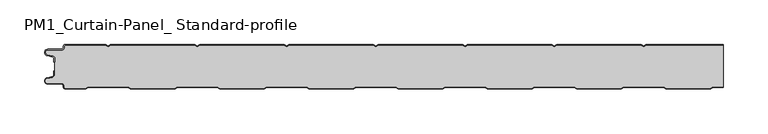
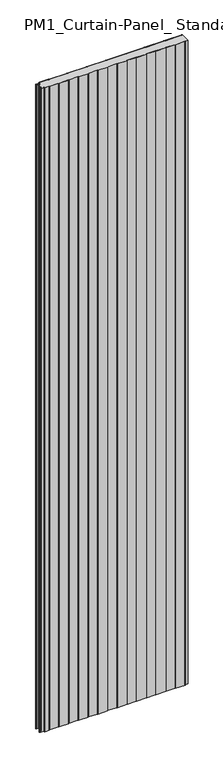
"""IFC4 building model written with IfcOpenShell, lengths in millimetres: plate geometry, PM1_Curtain-Panel_ Standard-profile : ACH_PM1_Acoustic-Sectioning-Panel_50M."""

from ifc_helpers import new_model, si_unit, point, frame_2d, origin, origin_with_axes, place, context, project, spatial, polyline, circle_curve, trimmed, segment, composite_curve, outline, extrude, source, transform, mapped, element, save


def pm1_curtain_panel_standard_profile_808d0dd5(model_context):
    return source(origin(), model_context, "Body", "SweptSolid", [
        extrude(outline(composite_curve([segment(trimmed(circle_curve(frame_2d((-377.0119739, -15.878557)), 2.0), [point((-375.0119739, -15.878557))], [point((-376.5620718, -13.9298169))], True, "CARTESIAN"), True, "CONTINUOUS"), segment(polyline([(-376.5620718, -13.9298169), (-382.7217978, -12.507732)]), True, "CONTINUOUS"), segment(trimmed(circle_curve(frame_2d((-381.9119739, -9.0)), 3.6), [point((-382.7217978, -12.507732))], [point((-381.9119739, -5.4))], False, "CARTESIAN"), True, "CONTINUOUS"), segment(polyline([(-381.9119739, -5.4), (-366.4119739, -5.4)]), True, "CONTINUOUS"), segment(trimmed(circle_curve(frame_2d((-366.4119739, -3.4)), 2.0), [point((-366.4119739, -5.4))], [point((-364.4119739, -3.4))], True, "CARTESIAN"), True, "CONTINUOUS"), segment(polyline([(-364.4119739, -3.4), (-364.4119739, -2.0)]), True, "CONTINUOUS"), segment(trimmed(circle_curve(frame_2d((-362.4119739, -2.0)), 2.0), [point((-364.4119739, -2.0))], [point((-362.4119739, 0.0))], False, "CARTESIAN"), True, "CONTINUOUS"), segment(polyline([(-362.4119739, 0.0), (-317.1119734, 0.0), (-314.4119739, -1.5588455), (-311.7119745, 0.0), (-217.1119734, 0.0), (-214.4119739, -1.5588455), (-211.7119745, 0.0), (-117.1119734, 0.0), (-114.4119739, -1.5588455), (-111.7119745, 0.0), (-17.1119734, 0.0), (-14.4119739, -1.5588455), (-11.7119745, 0.0), (82.8880266, 0.0), (85.5880261, -1.5588455), (88.2880255, 0.0), (182.8880266, 0.0), (185.5880261, -1.5588455), (188.2880255, 0.0), (282.8880266, 0.0), (285.5880261, -1.5588455), (288.2880255, 0.0), (375.0119739, 0.0), (375.0119739, -0.8), (288.5023849, -0.8), (285.5880261, -2.482606), (282.6736672, -0.8), (188.5023849, -0.8), (185.5880261, -2.482606), (182.6736672, -0.8), (88.5023849, -0.8), (85.5880261, -2.482606), (82.6736672, -0.8), (-11.4976151, -0.8), (-14.4119739, -2.482606), (-17.3263328, -0.8), (-111.4976151, -0.8), (-114.4119739, -2.482606), (-117.3263328, -0.8), (-211.4976151, -0.8), (-214.4119739, -2.482606), (-217.3263328, -0.8), (-311.4976151, -0.8), (-314.4119739, -2.482606), (-317.3263328, -0.8), (-362.4119739, -0.8)]), True, "CONTINUOUS"), segment(trimmed(circle_curve(frame_2d((-362.4119739, -2.0)), 1.2), [point((-362.4119739, -0.8))], [point((-363.6119739, -2.0))], True, "CARTESIAN"), True, "CONTINUOUS"), segment(polyline([(-363.6119739, -2.0), (-363.6119739, -3.4)]), True, "CONTINUOUS"), segment(trimmed(circle_curve(frame_2d((-366.4119739, -3.4)), 2.8), [point((-363.6119739, -3.4))], [point((-366.4119739, -6.2))], False, "CARTESIAN"), True, "CONTINUOUS"), segment(polyline([(-366.4119739, -6.2), (-381.9119739, -6.2)]), True, "CONTINUOUS"), segment(trimmed(circle_curve(frame_2d((-381.9119739, -9.0)), 2.8), [point((-381.9119739, -6.2))], [point((-382.541837, -11.7282362))], True, "CARTESIAN"), True, "CONTINUOUS"), segment(polyline([(-382.541837, -11.7282362), (-376.3821109, -13.150321)]), True, "CONTINUOUS"), segment(trimmed(circle_curve(frame_2d((-377.0119739, -15.878557)), 2.8), [point((-376.3821109, -13.150321))], [point((-374.2119739, -15.878557))], False, "CARTESIAN"), True, "CONTINUOUS"), segment(polyline([(-374.2119739, -15.878557), (-374.2119739, -20.0), (-375.0119739, -20.0), (-375.0119739, -15.878557)]), True, "CONTINUOUS")], self_intersect=False)), origin_with_axes(), (0.0, 0.0, 1.0), 3500.0),
        extrude(outline(composite_curve([segment(polyline([(-374.2119739, -34.121443), (-374.2119739, -15.8785573)]), True, "CONTINUOUS"), segment(trimmed(circle_curve(frame_2d((-377.0119739, -15.8785573)), 2.8), [point((-374.2119739, -15.8785573))], [point((-376.3821109, -13.1503212))], True, "CARTESIAN"), True, "CONTINUOUS"), segment(polyline([(-376.3821109, -13.1503212), (-382.541837, -11.7282362)]), True, "CONTINUOUS"), segment(trimmed(circle_curve(frame_2d((-381.911974, -9.0)), 2.8), [point((-382.541837, -11.7282362))], [point((-381.911974, -6.2))], False, "CARTESIAN"), True, "CONTINUOUS"), segment(polyline([(-381.911974, -6.2), (-366.411974, -6.2)]), True, "CONTINUOUS"), segment(trimmed(circle_curve(frame_2d((-366.411974, -3.4)), 2.8), [point((-366.411974, -6.2))], [point((-363.611974, -3.4))], True, "CARTESIAN"), True, "CONTINUOUS"), segment(polyline([(-363.611974, -3.4), (-363.611974, -2.0)]), True, "CONTINUOUS"), segment(trimmed(circle_curve(frame_2d((-362.411974, -2.0)), 1.2), [point((-363.611974, -2.0))], [point((-362.411974, -0.8))], False, "CARTESIAN"), True, "CONTINUOUS"), segment(polyline([(-362.411974, -0.8), (-317.3263329, -0.8), (-314.411974, -2.482606), (-311.4976152, -0.8), (-217.3263329, -0.8), (-214.411974, -2.482606), (-211.4976152, -0.8), (-117.3263329, -0.8), (-114.411974, -2.482606), (-111.4976152, -0.8), (-17.3263329, -0.8), (-14.411974, -2.482606), (-11.4976152, -0.8), (82.6736671, -0.8), (85.588026, -2.482606), (88.5023848, -0.8), (182.6736671, -0.8), (185.588026, -2.482606), (188.5023848, -0.8), (282.6736671, -0.8), (285.588026, -2.482606), (288.5023848, -0.8), (375.0119739, -0.8), (375.0119739, -47.7), (362.9717445, -47.7), (360.3736669, -49.2), (310.7985382, -49.2), (308.2004606, -47.7), (262.9717445, -47.7), (260.3736669, -49.2), (210.7985382, -49.2), (208.2004606, -47.7), (162.9717445, -47.7), (160.3736669, -49.2), (110.7985382, -49.2), (108.2004606, -47.7), (62.9717445, -47.7), (60.3736669, -49.2), (10.7985382, -49.2), (8.2004606, -47.7), (-37.0282555, -47.7), (-39.6263331, -49.2), (-89.2014618, -49.2), (-91.7995394, -47.7), (-137.0282555, -47.7), (-139.6263331, -49.2), (-189.2014618, -49.2), (-191.7995394, -47.7), (-237.0282555, -47.7), (-239.6263331, -49.2), (-289.2014618, -49.2), (-291.7995394, -47.7), (-337.0282555, -47.7), (-339.6263331, -49.2), (-362.4119739, -49.2)]), True, "CONTINUOUS"), segment(trimmed(circle_curve(frame_2d((-362.4119739, -48.0)), 1.2), [point((-362.4119739, -49.2))], [point((-363.6119739, -48.0))], False, "CARTESIAN"), True, "CONTINUOUS"), segment(polyline([(-363.6119739, -48.0), (-363.6119739, -46.5999998)]), True, "CONTINUOUS"), segment(trimmed(circle_curve(frame_2d((-366.4119739, -46.5999998)), 2.8), [point((-363.6119739, -46.5999998))], [point((-366.4119739, -43.7999998))], True, "CARTESIAN"), True, "CONTINUOUS"), segment(polyline([(-366.4119739, -43.7999998), (-381.9119739, -43.7999998)]), True, "CONTINUOUS"), segment(trimmed(circle_curve(frame_2d((-381.9119739, -41.0)), 2.7999998), [point((-381.9119739, -43.7999998))], [point((-382.5418369, -38.271764))], False, "CARTESIAN"), True, "CONTINUOUS"), segment(polyline([(-382.5418369, -38.271764), (-376.3821109, -36.8496792)]), True, "CONTINUOUS"), segment(trimmed(circle_curve(frame_2d((-377.0119739, -34.121443)), 2.8), [point((-376.3821109, -36.8496792))], [point((-374.2119739, -34.121443))], True, "CARTESIAN"), True, "CONTINUOUS")], self_intersect=False)), origin_with_axes(), (0.0, 0.0, 1.0), 3500.0),
        extrude(outline(composite_curve([segment(trimmed(circle_curve(frame_2d((-362.4119739, -48.0)), 2.0), [point((-362.4119739, -50.0))], [point((-364.4119739, -48.0))], False, "CARTESIAN"), True, "CONTINUOUS"), segment(polyline([(-364.4119739, -48.0), (-364.4119739, -46.6)]), True, "CONTINUOUS"), segment(trimmed(circle_curve(frame_2d((-366.4119739, -46.6)), 2.0), [point((-364.4119739, -46.6))], [point((-366.4119739, -44.6))], True, "CARTESIAN"), True, "CONTINUOUS"), segment(polyline([(-366.4119739, -44.6), (-381.9119739, -44.6)]), True, "CONTINUOUS"), segment(trimmed(circle_curve(frame_2d((-381.9119739, -41.0)), 3.6), [point((-381.9119739, -44.6))], [point((-382.7217979, -37.4922678))], False, "CARTESIAN"), True, "CONTINUOUS"), segment(polyline([(-382.7217979, -37.4922678), (-376.5620718, -36.070183)]), True, "CONTINUOUS"), segment(trimmed(circle_curve(frame_2d((-377.0119739, -34.121443)), 2.0), [point((-376.5620718, -36.070183))], [point((-375.0119739, -34.121443))], True, "CARTESIAN"), True, "CONTINUOUS"), segment(polyline([(-375.0119739, -34.121443), (-375.0119739, -30.0), (-374.2119739, -30.0), (-374.2119739, -34.121443)]), True, "CONTINUOUS"), segment(trimmed(circle_curve(frame_2d((-377.0119739, -34.121443)), 2.8), [point((-374.2119739, -34.121443))], [point((-376.3821109, -36.8496792))], False, "CARTESIAN"), True, "CONTINUOUS"), segment(polyline([(-376.3821109, -36.8496792), (-382.5418369, -38.271764)]), True, "CONTINUOUS"), segment(trimmed(circle_curve(frame_2d((-381.9119739, -41.0)), 2.8), [point((-382.5418369, -38.271764))], [point((-381.9119739, -43.8))], True, "CARTESIAN"), True, "CONTINUOUS"), segment(polyline([(-381.9119739, -43.8), (-366.4119739, -43.8)]), True, "CONTINUOUS"), segment(trimmed(circle_curve(frame_2d((-366.4119739, -46.6)), 2.8), [point((-366.4119739, -43.8))], [point((-363.6119739, -46.6))], False, "CARTESIAN"), True, "CONTINUOUS"), segment(polyline([(-363.6119739, -46.6), (-363.6119739, -48.0)]), True, "CONTINUOUS"), segment(trimmed(circle_curve(frame_2d((-362.4119739, -48.0)), 1.2), [point((-363.6119739, -48.0))], [point((-362.4119739, -49.2))], True, "CARTESIAN"), True, "CONTINUOUS"), segment(polyline([(-362.4119739, -49.2), (-339.6263331, -49.2), (-337.0282555, -47.7), (-291.7995394, -47.7), (-289.2014618, -49.2), (-239.6263331, -49.2), (-237.0282555, -47.7), (-191.7995394, -47.7), (-189.2014618, -49.2), (-139.6263331, -49.2), (-137.0282555, -47.7), (-91.7995394, -47.7), (-89.2014618, -49.2), (-39.6263331, -49.2), (-37.0282555, -47.7), (8.2004606, -47.7), (10.7985382, -49.2), (60.3736669, -49.2), (62.9717445, -47.7), (108.2004606, -47.7), (110.7985382, -49.2), (160.3736669, -49.2), (162.9717445, -47.7), (208.2004606, -47.7), (210.7985382, -49.2), (260.3736669, -49.2), (262.9717445, -47.7), (308.2004606, -47.7), (310.7985382, -49.2), (360.3736669, -49.2), (362.9717445, -47.7), (375.0119739, -47.7), (375.0119739, -48.5), (363.1861037, -48.5), (360.5880261, -50.0), (310.584179, -50.0), (307.9861014, -48.5), (263.1861037, -48.5), (260.5880261, -50.0), (210.584179, -50.0), (207.9861014, -48.5), (163.1861037, -48.5), (160.5880261, -50.0), (110.584179, -50.0), (107.9861014, -48.5), (63.1861037, -48.5), (60.5880261, -50.0), (10.584179, -50.0), (7.9861014, -48.5), (-36.8138963, -48.5), (-39.4119739, -50.0), (-89.415821, -50.0), (-92.0138986, -48.5), (-136.8138963, -48.5), (-139.4119739, -50.0), (-189.415821, -50.0), (-192.0138986, -48.5), (-236.8138963, -48.5), (-239.4119739, -50.0), (-289.415821, -50.0), (-292.0138986, -48.5), (-336.8138963, -48.5), (-339.4119739, -50.0), (-362.4119739, -50.0)]), True, "CONTINUOUS")], self_intersect=False)), origin_with_axes(), (0.0, 0.0, 1.0), 3500.0),
    ])


if __name__ == "__main__":
    model = new_model("IFC4")
    model_context = context("Model", 3, world=origin())
    ifc_project = project(units=[si_unit("LENGTHUNIT", "METRE", prefix="MILLI")], contexts=[model_context])
    site = spatial("IfcSite", under=ifc_project)
    building = spatial("IfcBuilding", under=site)
    placement = place(None, origin())
    pm1_curtain_panel_standard_profile_shape = pm1_curtain_panel_standard_profile_808d0dd5(model_context)
    element("IfcPlate", 1, ObjectType="PM1_Curtain-Panel_ Standard-profile : ACH_PM1_Acoustic-Sectioning-Panel_50M", at=placement, inside=building, context=model_context, shape_type="MappedRepresentation", body=[
        mapped(pm1_curtain_panel_standard_profile_shape, transform((0.0, 0.0, 0.0), x_axis=(1.0, 0.0, 0.0), y_axis=(0.0, 1.0, 0.0), z_axis=(0.0, 0.0, 1.0))),
    ])
    save(model, "model.ifc")
